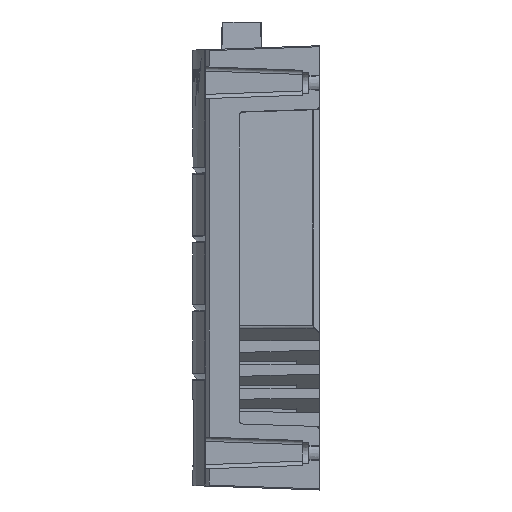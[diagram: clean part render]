
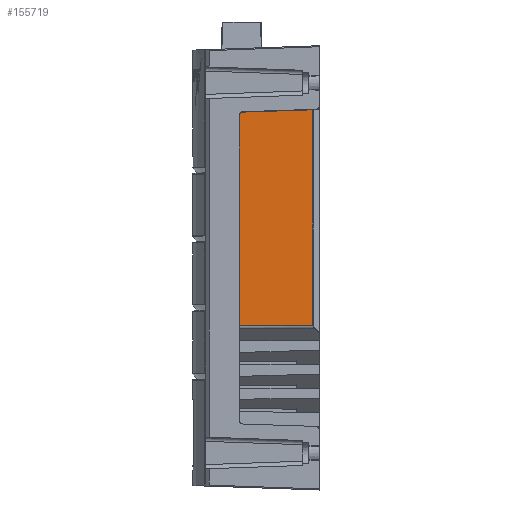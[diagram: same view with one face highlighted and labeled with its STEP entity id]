
A CAD part, left-side view. The second image highlights one B-rep face of the part: STEP entity #155719.
In plain terms, the highlighted planar face has unit normal (-1, -0.018, 0).
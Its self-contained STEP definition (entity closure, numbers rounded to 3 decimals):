
#7498 = CARTESIAN_POINT ( 'NONE',  ( -60.254, 3.081, 77.906 ) ) ;
#48091 = VECTOR ( 'NONE', #227757, 1000. ) ;
#48100 = VECTOR ( 'NONE', #227766, 1000. ) ;
#48105 = VECTOR ( 'NONE', #227795, 1000. ) ;
#48157 = VECTOR ( 'NONE', #228000, 1000. ) ;
#71768 = CARTESIAN_POINT ( 'NONE',  ( -61.085, 50.7, 178.131 ) ) ;
#77521 = VERTEX_POINT ( 'NONE', #171056 ) ;
#77701 = VERTEX_POINT ( 'NONE', #71768 ) ;
#77751 = VERTEX_POINT ( 'NONE', #7498 ) ;
#146142 = EDGE_CURVE ( 'NONE', #77751, #193859, #227734, .T. ) ;
#146147 = EDGE_CURVE ( 'NONE', #193859, #77701, #227736, .T. ) ;
#146152 = EDGE_CURVE ( 'NONE', #77521, #77751, #227770, .T. ) ;
#146187 = EDGE_CURVE ( 'NONE', #77701, #77521, #227985, .T. ) ;
#148250 = EDGE_CURVE ( 'NONE', #195411, #194504, #250866, .T. ) ;
#148252 = EDGE_CURVE ( 'NONE', #194510, #195411, #250851, .T. ) ;
#148261 = EDGE_CURVE ( 'NONE', #194495, #194510, #250878, .T. ) ;
#148265 = EDGE_CURVE ( 'NONE', #194504, #194495, #250852, .T. ) ;
#155719 = ADVANCED_FACE ( 'NONE', ( #197769, #197772 ), #197771, .F. ) ;
#155850 = ORIENTED_EDGE ( 'NONE', *, *, #146152, .F. ) ;
#155853 = ORIENTED_EDGE ( 'NONE', *, *, #146187, .F. ) ;
#155857 = ORIENTED_EDGE ( 'NONE', *, *, #146147, .F. ) ;
#155860 = ORIENTED_EDGE ( 'NONE', *, *, #146142, .F. ) ;
#155863 = ORIENTED_EDGE ( 'NONE', *, *, #148252, .F. ) ;
#155865 = ORIENTED_EDGE ( 'NONE', *, *, #148261, .F. ) ;
#155868 = ORIENTED_EDGE ( 'NONE', *, *, #148265, .F. ) ;
#155871 = ORIENTED_EDGE ( 'NONE', *, *, #148250, .F. ) ;
#164558 = EDGE_LOOP ( 'NONE', ( #155863, #155865, #155868, #155871 ) ) ;
#164658 = EDGE_LOOP ( 'NONE', ( #155850, #155853, #155857, #155860 ) ) ;
#171056 = CARTESIAN_POINT ( 'NONE',  ( -60.254, 3.081, 179.699 ) ) ;
#191725 = AXIS2_PLACEMENT_3D ( 'NONE', #197781, #197782, #197783 ) ;
#193859 = VERTEX_POINT ( 'NONE', #237363 ) ;
#194495 = VERTEX_POINT ( 'NONE', #238085 ) ;
#194504 = VERTEX_POINT ( 'NONE', #238091 ) ;
#194510 = VERTEX_POINT ( 'NONE', #238094 ) ;
#195411 = VERTEX_POINT ( 'NONE', #238596 ) ;
#197769 = FACE_OUTER_BOUND ( 'NONE', #164658, .T. ) ;
#197771 = PLANE ( 'NONE',  #191725 ) ;
#197772 = FACE_BOUND ( 'NONE', #164558, .T. ) ;
#197781 = CARTESIAN_POINT ( 'NONE',  ( -60.2, 0., 185.526 ) ) ;
#197782 = DIRECTION ( 'NONE',  ( 1., 0.017, 0. ) ) ;
#197783 = DIRECTION ( 'NONE',  ( -0.017, 1., 0. ) ) ;
#212924 = VECTOR ( 'NONE', #250871, 1000. ) ;
#212925 = VECTOR ( 'NONE', #250869, 1000. ) ;
#212926 = VECTOR ( 'NONE', #250883, 1000. ) ;
#212929 = VECTOR ( 'NONE', #250881, 1000. ) ;
#227734 = LINE ( 'NONE', #227756, #48091 ) ;
#227736 = LINE ( 'NONE', #227764, #48100 ) ;
#227756 = CARTESIAN_POINT ( 'NONE',  ( -61.096, 51.333, 77.557 ) ) ;
#227757 = DIRECTION ( 'NONE',  ( -0.017, 1., -0.007 ) ) ;
#227764 = CARTESIAN_POINT ( 'NONE',  ( -61.085, 50.7, 0. ) ) ;
#227766 = DIRECTION ( 'NONE',  ( 0., 0., 1. ) ) ;
#227770 = LINE ( 'NONE', #227788, #48105 ) ;
#227788 = CARTESIAN_POINT ( 'NONE',  ( -60.254, 3.081, 77.189 ) ) ;
#227795 = DIRECTION ( 'NONE',  ( 0., 0., -1. ) ) ;
#227985 = LINE ( 'NONE', #227997, #48157 ) ;
#227997 = CARTESIAN_POINT ( 'NONE',  ( -61.085, 50.7, 178.131 ) ) ;
#228000 = DIRECTION ( 'NONE',  ( 0.017, -0.999, 0.033 ) ) ;
#237363 = CARTESIAN_POINT ( 'NONE',  ( -61.085, 50.7, 77.562 ) ) ;
#238085 = CARTESIAN_POINT ( 'NONE',  ( -60.998, 45.7, 85.5 ) ) ;
#238091 = CARTESIAN_POINT ( 'NONE',  ( -60.998, 45.7, 94.5 ) ) ;
#238094 = CARTESIAN_POINT ( 'NONE',  ( -60.954, 43.2, 85.5 ) ) ;
#238596 = CARTESIAN_POINT ( 'NONE',  ( -60.954, 43.2, 94.5 ) ) ;
#250851 = LINE ( 'NONE', #250870, #212924 ) ;
#250852 = LINE ( 'NONE', #250882, #212926 ) ;
#250866 = LINE ( 'NONE', #250868, #212925 ) ;
#250868 = CARTESIAN_POINT ( 'NONE',  ( -60.2, 0., 94.5 ) ) ;
#250869 = DIRECTION ( 'NONE',  ( -0.017, 1., 0. ) ) ;
#250870 = CARTESIAN_POINT ( 'NONE',  ( -60.954, 43.2, 185.526 ) ) ;
#250871 = DIRECTION ( 'NONE',  ( 0., 0., 1. ) ) ;
#250878 = LINE ( 'NONE', #250880, #212929 ) ;
#250880 = CARTESIAN_POINT ( 'NONE',  ( -60.2, 0., 85.5 ) ) ;
#250881 = DIRECTION ( 'NONE',  ( 0.017, -1., 0. ) ) ;
#250882 = CARTESIAN_POINT ( 'NONE',  ( -60.998, 45.7, 185.526 ) ) ;
#250883 = DIRECTION ( 'NONE',  ( 0., 0., -1. ) ) ;
